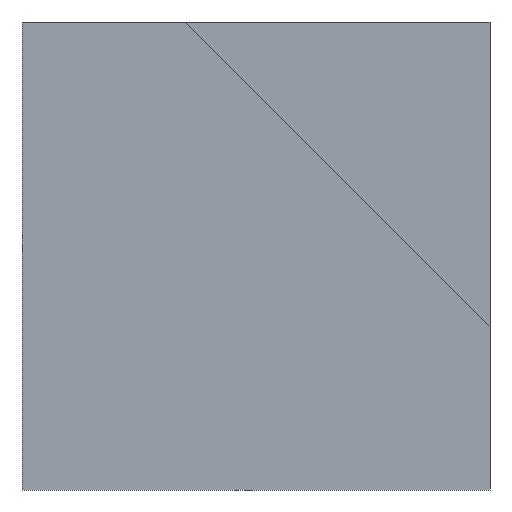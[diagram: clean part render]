
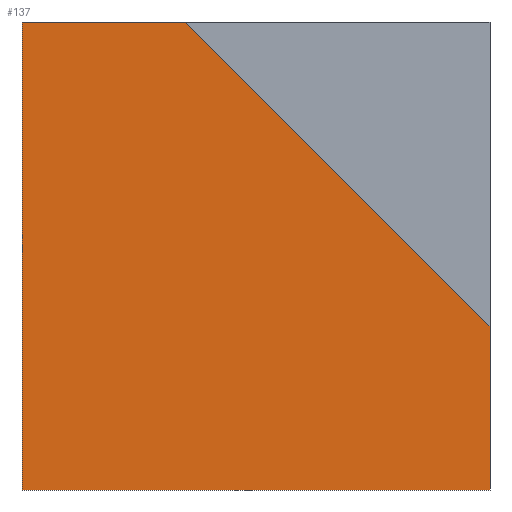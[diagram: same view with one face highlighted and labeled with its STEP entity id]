
A CAD part, left-side view. The second image highlights one B-rep face of the part: STEP entity #137.
In plain terms, the highlighted planar face has unit normal (-1, 0, 0).
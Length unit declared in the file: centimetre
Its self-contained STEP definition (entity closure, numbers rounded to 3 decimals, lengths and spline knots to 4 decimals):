
#6 = VERTEX_POINT ( 'NONE', #65 ) ;
#17 = AXIS2_PLACEMENT_3D ( 'NONE', #97, #201, #297 ) ;
#23 = LINE ( 'NONE', #246, #259 ) ;
#24 = EDGE_CURVE ( 'NONE', #322, #6, #215, .T. ) ;
#27 = CARTESIAN_POINT ( 'NONE',  ( 0., 1000., 0. ) ) ;
#28 = DIRECTION ( 'NONE',  ( 0., -0.707, -0.707 ) ) ;
#45 = VERTEX_POINT ( 'NONE', #330 ) ;
#50 = EDGE_CURVE ( 'NONE', #318, #45, #196, .T. ) ;
#56 = ORIENTED_EDGE ( 'NONE', *, *, #239, .T. ) ;
#65 = CARTESIAN_POINT ( 'NONE',  ( 0., 649.6965, 1000. ) ) ;
#74 = DIRECTION ( 'NONE',  ( 0., -1., 0. ) ) ;
#85 = EDGE_CURVE ( 'NONE', #322, #117, #23, .T. ) ;
#89 = CARTESIAN_POINT ( 'NONE',  ( 0., 1000., 1000. ) ) ;
#95 = CARTESIAN_POINT ( 'NONE',  ( 0., 0., 1000. ) ) ;
#97 = CARTESIAN_POINT ( 'NONE',  ( 0., 1000., 1000. ) ) ;
#107 = CARTESIAN_POINT ( 'NONE',  ( 0., 0., 350.3035 ) ) ;
#115 = VECTOR ( 'NONE', #74, 100. ) ;
#117 = VERTEX_POINT ( 'NONE', #199 ) ;
#137 = ADVANCED_FACE ( 'NONE', ( #174 ), #304, .F. ) ;
#143 = VECTOR ( 'NONE', #273, 100. ) ;
#144 = ORIENTED_EDGE ( 'NONE', *, *, #24, .F. ) ;
#159 = CARTESIAN_POINT ( 'NONE',  ( 0., 649.6965, 1000. ) ) ;
#174 = FACE_OUTER_BOUND ( 'NONE', #192, .T. ) ;
#189 = ORIENTED_EDGE ( 'NONE', *, *, #252, .F. ) ;
#192 = EDGE_LOOP ( 'NONE', ( #217, #189, #144, #291, #56 ) ) ;
#196 = LINE ( 'NONE', #95, #143 ) ;
#199 = CARTESIAN_POINT ( 'NONE',  ( 0., 1000., 0. ) ) ;
#201 = DIRECTION ( 'NONE',  ( 1., 0., 0. ) ) ;
#215 = LINE ( 'NONE', #89, #329 ) ;
#217 = ORIENTED_EDGE ( 'NONE', *, *, #50, .F. ) ;
#220 = DIRECTION ( 'NONE',  ( 0., -1., 0. ) ) ;
#225 = VECTOR ( 'NONE', #28, 100. ) ;
#239 = EDGE_CURVE ( 'NONE', #117, #45, #256, .T. ) ;
#246 = CARTESIAN_POINT ( 'NONE',  ( 0., 1000., 1000. ) ) ;
#249 = DIRECTION ( 'NONE',  ( 0., 0., -1. ) ) ;
#252 = EDGE_CURVE ( 'NONE', #6, #318, #276, .T. ) ;
#254 = CARTESIAN_POINT ( 'NONE',  ( 0., 1000., 1000. ) ) ;
#256 = LINE ( 'NONE', #27, #115 ) ;
#259 = VECTOR ( 'NONE', #249, 100. ) ;
#273 = DIRECTION ( 'NONE',  ( 0., 0., -1. ) ) ;
#276 = LINE ( 'NONE', #159, #225 ) ;
#291 = ORIENTED_EDGE ( 'NONE', *, *, #85, .T. ) ;
#297 = DIRECTION ( 'NONE',  ( 0., 0., -1. ) ) ;
#304 = PLANE ( 'NONE',  #17 ) ;
#318 = VERTEX_POINT ( 'NONE', #107 ) ;
#322 = VERTEX_POINT ( 'NONE', #254 ) ;
#329 = VECTOR ( 'NONE', #220, 100. ) ;
#330 = CARTESIAN_POINT ( 'NONE',  ( 0., 0., 0. ) ) ;
